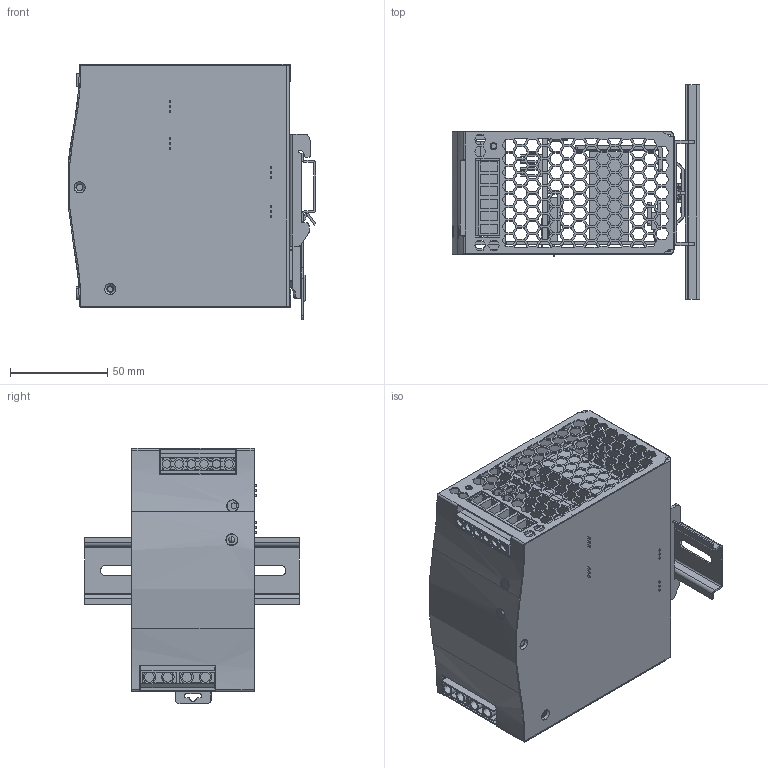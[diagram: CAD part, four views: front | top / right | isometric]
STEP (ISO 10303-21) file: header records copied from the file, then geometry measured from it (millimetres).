
FILE_DESCRIPTION(('Creo Elements/Direct Modeling STEP Export'),'2;1');
FILE_NAME('TDR-240.stp','2020-05-06T15:21:28',(''),(''),'PTC Creo Elements/Direct Modeling STEP processor for AP214 (Solid Model)','PTC Creo Elements/Direct Modeling 19.0E 27-Jun-2016 (C) Parametric Technology GmbH','');
FILE_SCHEMA(('AUTOMOTIVE_DESIGN { 1 0 10303 214 1 1 1 1 }'));
Length unit declared in the file: millimetre
Products named in the file (39): SI.PRT; MYLAR2.PRT; MYLAR1.PRT; 1HH.ASM; P3_1.PRT; P2-802040.PRT; HS2.PRT; PIN_1_2.PRT; P2-711530.PRT; PIN5X5X26_3_PRT.PRT; HS1.ASM; HS-585.PRT; 1GG1.ASM; 2.PRT; P3_1_1_1.PRT; P3_1_1_2.PRT; 1GG2.ASM; 1GG.ASM; _X2_4E0B76D6_X0_.PRT; _X2_4E0A84CB_X0_.PRT; CASE.ASM; TB2.PRT; TB1.PRT; PCB2.PRT; PCB2_1.ASM; LED.PRT; FF.PRT; VR.PRT; MOS15_5X10_1_1_1_1_1_1_2_1_1_1_.PRT; MOS.ASM; PCB1-9560.PRT; PCB1-29390.ASM; TDR-240_1.ASM; p1.1; p3.2.1; 15.1; 挂座; DRP14-R4; TDR-240.stp
Assembly tree (41 placements, depth 6):
  TDR-240.stp
    DRP14-R4
      挂座
      15.1
      p3.2.1
      p1.1
    TDR-240_1.ASM
      PCB1-29390.ASM
        PCB1-9560.PRT
        MOS.ASM
          MOS15_5X10_1_1_1_1_1_1_2_1_1_1_.PRT  x4
        VR.PRT
        FF.PRT
        LED.PRT
      PCB2_1.ASM
        PCB2.PRT
        TB1.PRT
        TB2.PRT
      CASE.ASM
        _X2_4E0A84CB_X0_.PRT
        _X2_4E0B76D6_X0_.PRT
      1GG.ASM
        1GG2.ASM
          P3_1_1_2.PRT
          P3_1_1_1.PRT
          2.PRT
        1GG1.ASM
          HS-585.PRT
          HS1.ASM
            PIN5X5X26_3_PRT.PRT
            P2-711530.PRT
            PIN_1_2.PRT
          HS2.PRT
          P2-802040.PRT
          P3_1.PRT
      1HH.ASM
        MYLAR1.PRT
        MYLAR2.PRT
        SI.PRT
Bounding box: 127.52 x 110.38 x 131.5 mm (x, y, z)
Volume: 189140.8 mm3; surface area: 242027.7 mm2
Topology: 29 solids, 29 shells, 2665 faces, 7519 edges, 4984 vertices
Faces by surface type: plane 2162, cylinder 423, cone 40, torus 38, bspline 2
Entity records: 202608 total; most frequent: CARTESIAN_POINT 132820, ORIENTED_EDGE 14642, DIRECTION 13034, EDGE_CURVE 7321, VECTOR 6364, LINE 6364, VERTEX_POINT 4852, AXIS2_PLACEMENT_3D 3335
